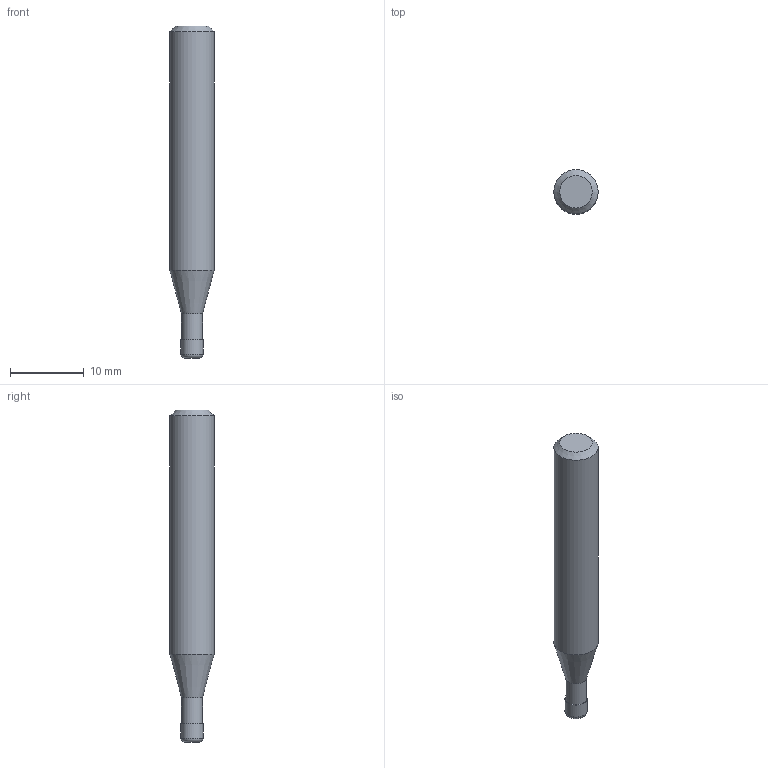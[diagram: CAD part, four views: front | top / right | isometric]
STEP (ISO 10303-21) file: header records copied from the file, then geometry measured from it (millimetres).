
FILE_DESCRIPTION((''),'2;1');
FILE_NAME('C:\Users\nsx150\AppData\Local\Temp\Mastercam 2021\8MCJJJGUOI\TEMP.step','2022-10-12T10:45:50',(''),(''),'STEP Write','Mastercam 2021 ... CNC Software, Inc.','');
FILE_SCHEMA(('AUTOMOTIVE_DESIGN'));
Length unit declared in the file: millimetre
Products named in the file (1): None
Bounding box: 6 x 6 x 45 mm (x, y, z)
Volume: 1064.8 mm3; surface area: 800.8 mm2
Topology: 2 solids, 2 shells, 10 faces, 14 edges, 8 vertices
Faces by surface type: plane 4, cylinder 3, cone 2, torus 1
Full cylindrical faces by diameter (mm): 2.85 x1, 3 x1, 6 x1
Entity records: 232 total; most frequent: DIRECTION 40, CARTESIAN_POINT 28, AXIS2_PLACEMENT_3D 20, ORIENTED_EDGE 16, EDGE_LOOP 16, STYLED_ITEM 13, ADVANCED_FACE 10, FACE_BOUND 10
